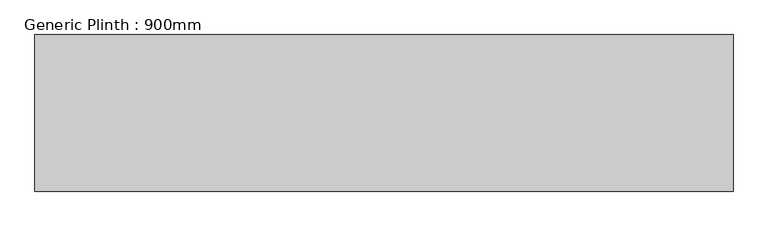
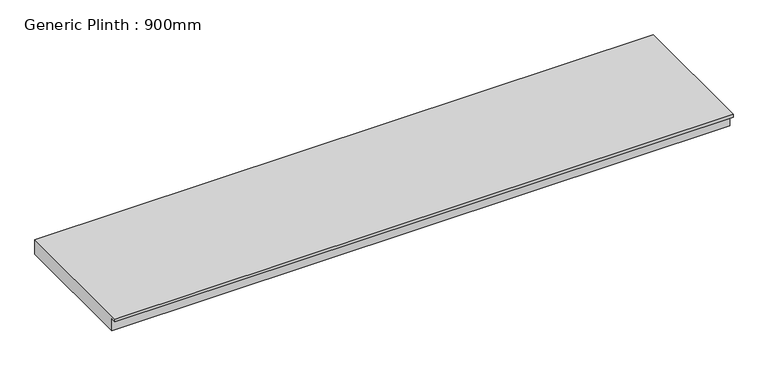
"""IFC4 building model written with IfcOpenShell, lengths in millimetres: furniture geometry, Generic Plinth : 900mm."""

import ifcopenshell
import ifcopenshell.guid

model = None  # the IFC model being written
_history = None  # IfcOwnerHistory: only IFC2X3 demands one
_inside = {}  # id of a spatial element -> (the spatial element, [elements in it])
_under = {}  # id of a project, library or spatial element -> (it, [spatial elements below it])
_declared = {}  # id of a project -> (the project, [libraries it declares])
_typed = {}  # id of a type object -> (the type object, [elements of that type])
_made_of = {}  # id of a material, layer set ... -> (it, [elements and type objects made of it])


def new_model(schema):
    """Start an empty IFC model of exactly this schema.

    Asked for "IFC4X3", IfcOpenShell would pick the latest addendum, in which some entities
    have other attributes; the version numbers below select the first issue.
    IFC2X3 requires an IfcOwnerHistory on every rooted entity: one is made here for all.
    """
    global model, _history
    if schema == "IFC4X3":
        model = ifcopenshell.file(schema_version=(4, 3, 0, 0))
    else:
        model = ifcopenshell.file(schema=schema)
    _inside.clear()
    _under.clear()
    _declared.clear()
    _typed.clear()
    _made_of.clear()
    _history = None
    if model.schema == "IFC2X3":
        org = make("IfcOrganization", Name="unknown")
        user = make(
            "IfcPersonAndOrganization",
            ThePerson=make("IfcPerson", FamilyName="unknown"),
            TheOrganization=org,
        )
        app = make(
            "IfcApplication",
            ApplicationDeveloper=org,
            Version="unknown",
            ApplicationFullName="unknown",
            ApplicationIdentifier="unknown",
        )
        _history = make(
            "IfcOwnerHistory",
            OwningUser=user,
            OwningApplication=app,
            ChangeAction="ADDED",
            CreationDate=0,
        )
    return model


def make(cls, **values):
    """One entity of the class cls with the attributes given. An attribute that is None is left unset."""
    return model.create_entity(
        cls, **{name: value for name, value in values.items() if value is not None}
    )


def rooted(cls, **values):
    """An entity with a GlobalId (a new one), such as an element, a storey or a relation."""
    return make(cls, GlobalId=ifcopenshell.guid.new(), OwnerHistory=_history, **values)


def si_unit(unit_type, name, prefix=None):
    """IfcSIUnit, for example si_unit("LENGTHUNIT", "METRE", prefix="MILLI")."""
    return make("IfcSIUnit", UnitType=unit_type, Prefix=prefix, Name=name)


def assignment(units):
    """IfcUnitAssignment: the units of a project."""
    return None if units is None else make("IfcUnitAssignment", Units=units)


def point(xyz):
    """IfcCartesianPoint."""
    return None if xyz is None else make("IfcCartesianPoint", Coordinates=xyz)


def direction(xyz):
    """IfcDirection."""
    return None if xyz is None else make("IfcDirection", DirectionRatios=xyz)


def frame(location, z_axis=None, x_axis=None):
    """IfcAxis2Placement3D, a coordinate frame: its origin and axes. An axis left out is left unset."""
    return make(
        "IfcAxis2Placement3D",
        Location=point(location),
        Axis=direction(z_axis),
        RefDirection=direction(x_axis),
    )


def origin():
    """The frame at (0, 0, 0) with its axes left unset."""
    return frame((0.0, 0.0, 0.0))


def place(relative_to, where):
    """IfcLocalPlacement: puts the frame where relative to a parent placement (None: the world)."""
    return make(
        "IfcLocalPlacement", PlacementRelTo=relative_to, RelativePlacement=where
    )


def context(
    kind, dimensions, precision=None, world=None, true_north=None, identifier=None
):
    """IfcGeometricRepresentationContext, for example the 3D "Model" context."""
    return make(
        "IfcGeometricRepresentationContext",
        ContextIdentifier=identifier,
        ContextType=kind,
        CoordinateSpaceDimension=dimensions,
        Precision=precision,
        WorldCoordinateSystem=world,
        TrueNorth=true_north,
    )


def project(units=None, contexts=None):
    """IfcProject with its units and contexts."""
    return rooted(
        "IfcProject",
        Name="project",
        RepresentationContexts=contexts,
        UnitsInContext=assignment(units),
    )


def spatial(cls, under=None, at=None, **own):
    """A site, building, storey or space (cls), placed at a placement, below another one or the project."""
    s = rooted(cls, ObjectPlacement=at, **own)
    if under is not None:
        _under.setdefault(under.id(), (under, []))[1].append(s)
    return s


def polyline(points):
    """IfcPolyline through the points."""
    return make("IfcPolyline", Points=[point(p) for p in points])


def outline(outer, holes=None, kind="AREA"):
    """IfcArbitraryClosedProfileDef: a profile drawn as a closed curve; with holes, ...WithVoids."""
    if holes is None:
        return make("IfcArbitraryClosedProfileDef", ProfileType=kind, OuterCurve=outer)
    return make(
        "IfcArbitraryProfileDefWithVoids",
        ProfileType=kind,
        OuterCurve=outer,
        InnerCurves=holes,
    )


def extrude(swept, where, along, depth):
    """IfcExtrudedAreaSolid: the profile swept, set in the frame where, extruded along a direction by depth."""
    return make(
        "IfcExtrudedAreaSolid",
        SweptArea=swept,
        Position=where,
        ExtrudedDirection=direction(along),
        Depth=depth,
    )


def shape(context_of_items, identifier, shape_type, items):
    """IfcShapeRepresentation: the items that make up one representation, for example the "Body"."""
    return make(
        "IfcShapeRepresentation",
        ContextOfItems=context_of_items,
        RepresentationIdentifier=identifier,
        RepresentationType=shape_type,
        Items=items,
    )


def source(mapping_origin, context_of_items, identifier, shape_type, items):
    """IfcRepresentationMap: a shape defined once, which mapped items show again and again."""
    return make(
        "IfcRepresentationMap",
        MappingOrigin=mapping_origin,
        MappedRepresentation=shape(context_of_items, identifier, shape_type, items),
    )


def transform(
    local_origin,
    x_axis=None,
    y_axis=None,
    z_axis=None,
    scale=None,
    scale2=None,
    scale3=None,
    uniform=True,
):
    """IfcCartesianTransformationOperator3D, or its non-uniform kind. x_axis, y_axis, z_axis: its Axis1, 2, 3."""
    if uniform:
        return make(
            "IfcCartesianTransformationOperator3D",
            Axis1=direction(x_axis),
            Axis2=direction(y_axis),
            LocalOrigin=point(local_origin),
            Scale=scale,
            Axis3=direction(z_axis),
        )
    return make(
        "IfcCartesianTransformationOperator3DnonUniform",
        Axis1=direction(x_axis),
        Axis2=direction(y_axis),
        LocalOrigin=point(local_origin),
        Scale=scale,
        Axis3=direction(z_axis),
        Scale2=scale2,
        Scale3=scale3,
    )


def mapped(mapping_source, mapping_target):
    """IfcMappedItem: shows the shape of a source again, moved by a transform."""
    return make(
        "IfcMappedItem", MappingSource=mapping_source, MappingTarget=mapping_target
    )


def made_of(thing, what):
    """Note that an element or type object is made of a material, layer set ...; save() writes the relation."""
    if what is not None:
        _made_of.setdefault(what.id(), (what, []))[1].append(thing)
    return thing


def element(
    cls,
    number,
    at=None,
    inside=None,
    cuts=None,
    type_object=None,
    material=None,
    context=None,
    identifier="Body",
    shape_type=None,
    held_by="IfcProductDefinitionShape",
    body=None,
    shapes=None,
    **own,
):
    """One element of the class cls, such as IfcWall. Its Tag is "e" and its number.

    at: its placement. inside: the storey or other place that contains it. cuts: it is an
    opening in that element (IfcRelVoidsElement). A single representation is given by context,
    identifier, shape_type and body (its items); several are given by shapes. held_by: the class
    of the entity that holds the representations. save() writes the other relations.
    """
    e = rooted(cls, Tag="e%d" % number, ObjectPlacement=at, **own)
    if body is not None:
        shapes = [shape(context, identifier, shape_type, body)]
    if shapes is not None:
        e.Representation = make(held_by, Representations=shapes)
    if inside is not None:
        _inside.setdefault(inside.id(), (inside, []))[1].append(e)
    if cuts is not None:
        rooted(
            "IfcRelVoidsElement", RelatingBuildingElement=cuts, RelatedOpeningElement=e
        )
    if type_object is not None:
        _typed.setdefault(type_object.id(), (type_object, []))[1].append(e)
    return made_of(e, material)


def aggregate(whole, parts):
    """IfcRelAggregates: a whole, such as a stair, and the parts it consists of."""
    return rooted("IfcRelAggregates", RelatingObject=whole, RelatedObjects=parts)


def save(model, path):
    """Write the relations noted so far, then the file.

    IfcRelAggregates (storeys below a building ...), IfcRelContainedInSpatialStructure (elements
    in a storey), IfcRelDefinesByType, IfcRelAssociatesMaterial and IfcRelDeclares: one each for
    every whole, place, type object, material and project.
    """
    for whole, parts in _under.values():
        aggregate(whole, parts)
    for where, things in _inside.values():
        rooted(
            "IfcRelContainedInSpatialStructure",
            RelatedElements=things,
            RelatingStructure=where,
        )
    for kind, things in _typed.values():
        rooted("IfcRelDefinesByType", RelatedObjects=things, RelatingType=kind)
    for what, things in _made_of.values():
        rooted("IfcRelAssociatesMaterial", RelatedObjects=things, RelatingMaterial=what)
    for by, libraries in _declared.values():
        rooted("IfcRelDeclares", RelatingContext=by, RelatedDefinitions=libraries)
    model.write(path)


def generic_plinth_900mm_18ae8893(model_context):
    return source(origin(), model_context, "Body", "SweptSolid", [
        extrude(outline(polyline([(-900.0, 81.0), (-900.0, 100.0), (0.0, 100.0), (0.0, 0.0), (-865.0, 0.0), (-865.0, 81.0), (-900.0, 81.0)])), frame((-1987.5128375, 0.0, 0.0), z_axis=(1.0, 0.0, 0.0), x_axis=(0.0, 1.0, 0.0)), (0.0, 0.0, 1.0), 4012.5010847),
    ])


if __name__ == "__main__":
    model = new_model("IFC4")
    model_context = context("Model", 3, world=origin())
    ifc_project = project(units=[si_unit("LENGTHUNIT", "METRE", prefix="MILLI")], contexts=[model_context])
    site = spatial("IfcSite", under=ifc_project)
    building = spatial("IfcBuilding", under=site)
    placement = place(None, origin())
    generic_plinth_900mm_shape = generic_plinth_900mm_18ae8893(model_context)
    element("IfcFurniture", 1, ObjectType="Generic Plinth : 900mm", at=placement, inside=building, context=model_context, shape_type="MappedRepresentation", body=[
        mapped(generic_plinth_900mm_shape, transform((0.0, 0.0, 0.0), x_axis=(1.0, 0.0, 0.0), y_axis=(0.0, 1.0, 0.0), z_axis=(0.0, 0.0, 1.0))),
    ])
    save(model, "model.ifc")
